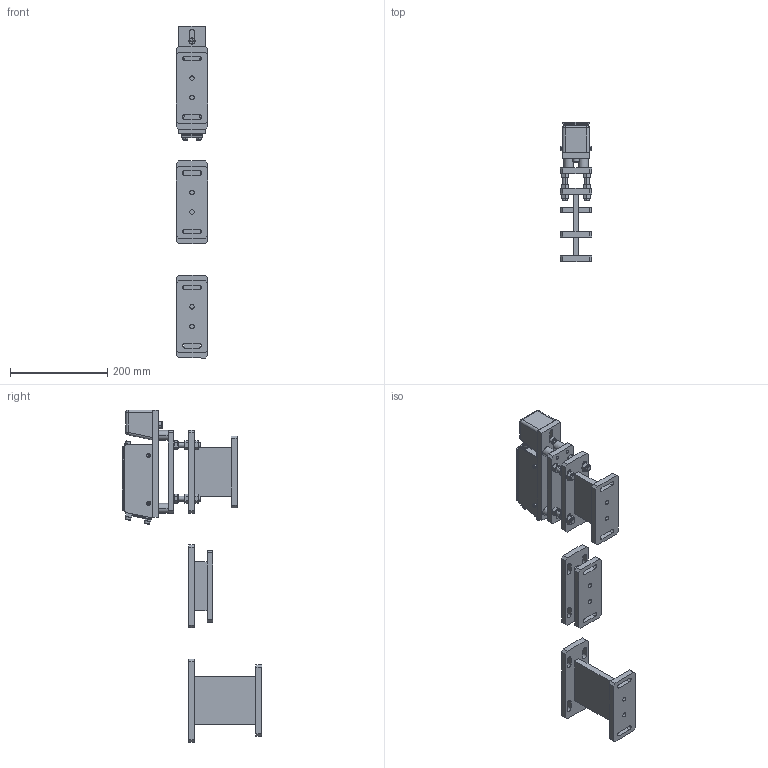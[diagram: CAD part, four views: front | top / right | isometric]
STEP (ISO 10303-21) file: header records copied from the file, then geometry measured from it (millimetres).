
FILE_DESCRIPTION (( 'STEP AP203' ), '1' );
FILE_NAME ('ZY140 假蚾芞01.STEP', '2023-09-03T06:43:01', ( '' ), ( '' ), 'SwSTEP 2.0', 'SolidWorks 2022', '' );
FILE_SCHEMA (( 'CONFIG_CONTROL_DESIGN' ));
Length unit declared in the file: millimetre
Products named in the file (1): ZY140  假蚾芞01
Bounding box: 65 x 286 x 681.84 mm (x, y, z)
Volume: 1918149.8 mm3; surface area: 372410.1 mm2
Topology: 36 solids, 56 shells, 995 faces, 2419 edges, 1551 vertices
Faces by surface type: plane 543, cylinder 294, cone 128, torus 26, sphere 4
Entity records: 30688 total; most frequent: CARTESIAN_POINT 6760, DIRECTION 5055, ORIENTED_EDGE 4790, EDGE_CURVE 2395, AXIS2_PLACEMENT_3D 1862, VERTEX_POINT 1551, VECTOR 1331, LINE 1331
